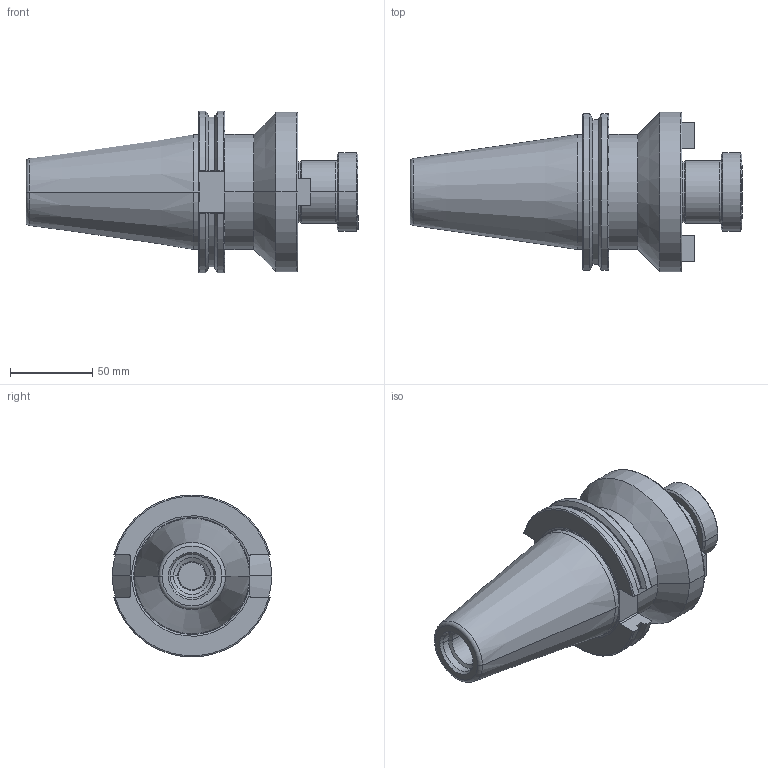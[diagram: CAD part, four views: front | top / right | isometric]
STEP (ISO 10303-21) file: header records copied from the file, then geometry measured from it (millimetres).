
FILE_DESCRIPTION (( 'STEP AP214' ), '1' );
FILE_NAME ('C6S4-1500.STEP', '2016-05-04T18:37:10', ( '' ), ( '' ), 'SwSTEP 2.0', 'SolidWorks 2016', '' );
FILE_SCHEMA (( 'AUTOMOTIVE_DESIGN' ));
Length unit declared in the file: inch
Products named in the file (1): C6S4-1500
Bounding box: 201.56 x 96.85 x 98.05 mm (x, y, z)
Volume: 595828.8 mm3; surface area: 76598.7 mm2
Topology: 1 solids, 2 shells, 247 faces, 630 edges, 380 vertices
Faces by surface type: plane 94, cone 73, cylinder 54, torus 26
Entity records: 7707 total; most frequent: CARTESIAN_POINT 1548, DIRECTION 1319, ORIENTED_EDGE 1236, EDGE_CURVE 618, AXIS2_PLACEMENT_3D 507, VERTEX_POINT 380, VECTOR 305, LINE 305
